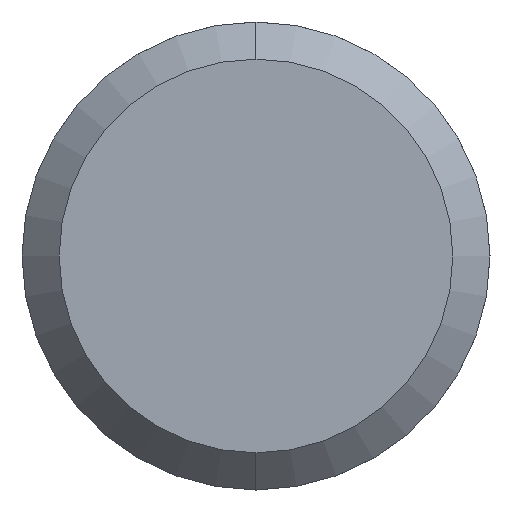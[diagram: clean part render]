
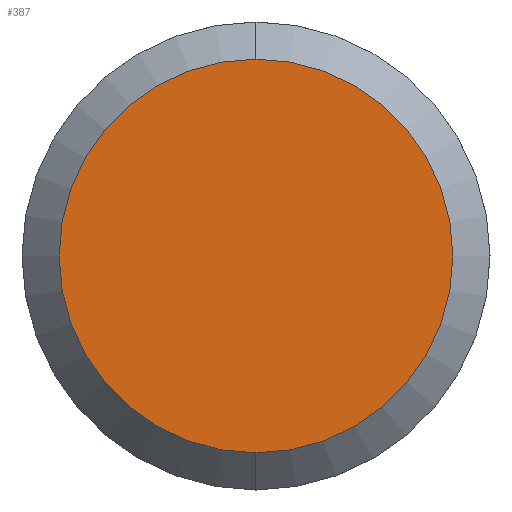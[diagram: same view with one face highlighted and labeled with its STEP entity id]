
A CAD part, left-side view. The second image highlights one B-rep face of the part: STEP entity #387.
In plain terms, the highlighted planar face has unit normal (-1, 0, 0).
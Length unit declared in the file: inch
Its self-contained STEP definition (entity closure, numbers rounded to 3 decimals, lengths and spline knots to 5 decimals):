
#27 = VERTEX_POINT ( 'NONE', #185 ) ;
#72 = EDGE_CURVE ( 'NONE', #447, #27, #244, .T. ) ;
#76 = DIRECTION ( 'NONE',  ( 0., 0., 1. ) ) ;
#110 = CARTESIAN_POINT ( 'NONE',  ( 0., 0.13248, 0. ) ) ;
#123 = DIRECTION ( 'NONE',  ( 0., 0., -1. ) ) ;
#125 = AXIS2_PLACEMENT_3D ( 'NONE', #309, #272, #123 ) ;
#144 = CARTESIAN_POINT ( 'NONE',  ( 0., 0., 0.13248 ) ) ;
#154 = ORIENTED_EDGE ( 'NONE', *, *, #72, .F. ) ;
#165 = CIRCLE ( 'NONE', #174, 0.13248 ) ;
#172 = CARTESIAN_POINT ( 'NONE',  ( 0., 0., 0. ) ) ;
#174 = AXIS2_PLACEMENT_3D ( 'NONE', #172, #364, #469 ) ;
#182 = EDGE_LOOP ( 'NONE', ( #379, #154 ) ) ;
#185 = CARTESIAN_POINT ( 'NONE',  ( 0., 0., -0.13248 ) ) ;
#213 = EDGE_CURVE ( 'NONE', #27, #447, #165, .T. ) ;
#244 = CIRCLE ( 'NONE', #125, 0.13248 ) ;
#250 = AXIS2_PLACEMENT_3D ( 'NONE', #110, #289, #76 ) ;
#272 = DIRECTION ( 'NONE',  ( 1., 0., 0. ) ) ;
#289 = DIRECTION ( 'NONE',  ( -1., 0., 0. ) ) ;
#309 = CARTESIAN_POINT ( 'NONE',  ( 0., 0., 0. ) ) ;
#357 = FACE_OUTER_BOUND ( 'NONE', #182, .T. ) ;
#364 = DIRECTION ( 'NONE',  ( 1., 0., 0. ) ) ;
#379 = ORIENTED_EDGE ( 'NONE', *, *, #213, .F. ) ;
#387 = ADVANCED_FACE ( 'NONE', ( #357 ), #406, .T. ) ;
#406 = PLANE ( 'NONE',  #250 ) ;
#447 = VERTEX_POINT ( 'NONE', #144 ) ;
#469 = DIRECTION ( 'NONE',  ( 0., 0., -1. ) ) ;
